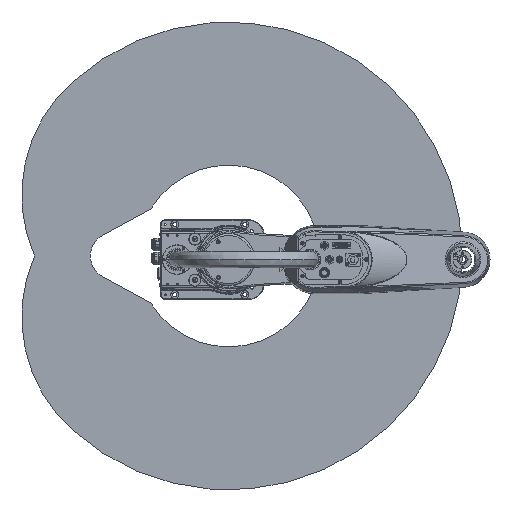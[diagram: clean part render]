
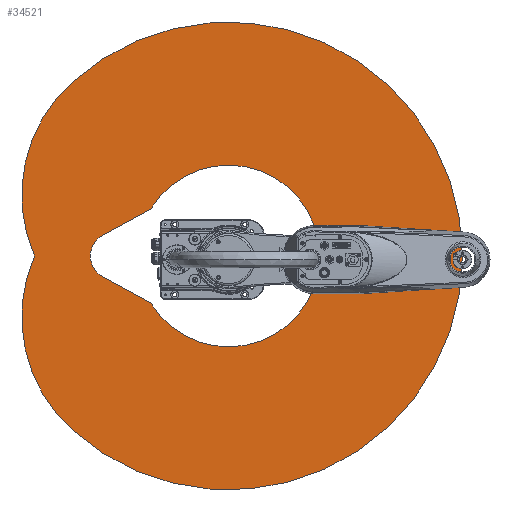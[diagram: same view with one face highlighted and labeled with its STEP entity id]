
A CAD part, left-side view. The second image highlights one B-rep face of the part: STEP entity #34521.
In plain terms, the highlighted planar face has unit normal (-1, 0, 0) as drawn and (0, -1, 0) by its records, which use the part's own axes.
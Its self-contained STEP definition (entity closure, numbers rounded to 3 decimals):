
#191 = VERTEX_POINT ( 'NONE', #91484 ) ;
#603 = CARTESIAN_POINT ( 'NONE',  ( 43.901, 0., 269.464 ) ) ;
#757 = EDGE_LOOP ( 'NONE', ( #51242, #29359, #32801, #58728 ) ) ;
#2511 = AXIS2_PLACEMENT_3D ( 'NONE', #65936, #19798, #12307 ) ;
#2615 = CARTESIAN_POINT ( 'NONE',  ( -100., 0., 166.552 ) ) ;
#3140 = CARTESIAN_POINT ( 'NONE',  ( 0., 0., 0. ) ) ;
#5515 = CIRCLE ( 'NONE', #61550, 50. ) ;
#9451 = DIRECTION ( 'NONE',  ( 0., 0., 1. ) ) ;
#9756 = CARTESIAN_POINT ( 'NONE',  ( 0., 0., 0. ) ) ;
#11497 = CARTESIAN_POINT ( 'NONE',  ( 65.025, 0., 58.549 ) ) ;
#11736 = EDGE_LOOP ( 'NONE', ( #31556, #36442, #84532, #15434, #97854 ) ) ;
#12307 = DIRECTION ( 'NONE',  ( 0., 0., -1. ) ) ;
#12398 = AXIS2_PLACEMENT_3D ( 'NONE', #9756, #41318, #40325 ) ;
#15434 = ORIENTED_EDGE ( 'NONE', *, *, #66139, .T. ) ;
#16088 = EDGE_CURVE ( 'NONE', #42979, #18615, #60010, .T. ) ;
#17666 = DIRECTION ( 'NONE',  ( 0., 0., 1. ) ) ;
#17684 = DIRECTION ( 'NONE',  ( 0., 0., 1. ) ) ;
#18449 = CIRCLE ( 'NONE', #2511, 325. ) ;
#18466 = EDGE_CURVE ( 'NONE', #21357, #37325, #50235, .T. ) ;
#18615 = VERTEX_POINT ( 'NONE', #52231 ) ;
#19148 = AXIS2_PLACEMENT_3D ( 'NONE', #86864, #33712, #17684 ) ;
#19206 = DIRECTION ( 'NONE',  ( 0., 1., 0. ) ) ;
#19798 = DIRECTION ( 'NONE',  ( 0., 1., 0. ) ) ;
#20332 = CARTESIAN_POINT ( 'NONE',  ( 0., 0., 414.943 ) ) ;
#21303 = AXIS2_PLACEMENT_3D ( 'NONE', #11497, #41091, #34040 ) ;
#21357 = VERTEX_POINT ( 'NONE', #2615 ) ;
#23367 = AXIS2_PLACEMENT_3D ( 'NONE', #76501, #99078, #84012 ) ;
#29359 = ORIENTED_EDGE ( 'NONE', *, *, #36957, .F. ) ;
#30688 = EDGE_CURVE ( 'NONE', #43555, #42979, #41632, .T. ) ;
#31556 = ORIENTED_EDGE ( 'NONE', *, *, #48498, .T. ) ;
#32801 = ORIENTED_EDGE ( 'NONE', *, *, #54594, .F. ) ;
#33543 = CARTESIAN_POINT ( 'NONE',  ( 371.572, 0., 334.565 ) ) ;
#33712 = DIRECTION ( 'NONE',  ( 0., 1., 0. ) ) ;
#34040 = DIRECTION ( 'NONE',  ( 0., 0., 1. ) ) ;
#34521 = ADVANCED_FACE ( 'NONE', ( #60695, #93718 ), #72153, .F. ) ;
#34714 = CARTESIAN_POINT ( 'NONE',  ( -43.901, 0., 269.464 ) ) ;
#34843 = CARTESIAN_POINT ( 'NONE',  ( 0., 0., -194.267 ) ) ;
#36442 = ORIENTED_EDGE ( 'NONE', *, *, #65220, .T. ) ;
#36957 = EDGE_CURVE ( 'NONE', #50567, #43555, #18449, .T. ) ;
#37325 = VERTEX_POINT ( 'NONE', #93679 ) ;
#40325 = DIRECTION ( 'NONE',  ( 0., 0., 1. ) ) ;
#41091 = DIRECTION ( 'NONE',  ( 0., 1., 0. ) ) ;
#41318 = DIRECTION ( 'NONE',  ( 0., 1., 0. ) ) ;
#41632 = CIRCLE ( 'NONE', #19148, 325. ) ;
#42244 = DIRECTION ( 'NONE',  ( 0., 0., 1. ) ) ;
#42979 = VERTEX_POINT ( 'NONE', #33543 ) ;
#43555 = VERTEX_POINT ( 'NONE', #20332 ) ;
#47496 = CIRCLE ( 'NONE', #66652, 194.267 ) ;
#48245 = VERTEX_POINT ( 'NONE', #92294 ) ;
#48498 = EDGE_CURVE ( 'NONE', #37325, #191, #5515, .T. ) ;
#48623 = VECTOR ( 'NONE', #80334, 1000. ) ;
#50235 = LINE ( 'NONE', #34714, #48623 ) ;
#50567 = VERTEX_POINT ( 'NONE', #80873 ) ;
#51242 = ORIENTED_EDGE ( 'NONE', *, *, #30688, .F. ) ;
#52231 = CARTESIAN_POINT ( 'NONE',  ( 0., 0., -500. ) ) ;
#54394 = AXIS2_PLACEMENT_3D ( 'NONE', #79888, #19206, #42244 ) ;
#54594 = EDGE_CURVE ( 'NONE', #18615, #50567, #64003, .T. ) ;
#54730 = DIRECTION ( 'NONE',  ( 0.479, 0., -0.878 ) ) ;
#58728 = ORIENTED_EDGE ( 'NONE', *, *, #16088, .F. ) ;
#60010 = CIRCLE ( 'NONE', #23367, 500. ) ;
#60695 = FACE_OUTER_BOUND ( 'NONE', #757, .T. ) ;
#61550 = AXIS2_PLACEMENT_3D ( 'NONE', #90696, #98698, #9451 ) ;
#64003 = CIRCLE ( 'NONE', #54394, 500. ) ;
#65220 = EDGE_CURVE ( 'NONE', #191, #48245, #76795, .T. ) ;
#65936 = CARTESIAN_POINT ( 'NONE',  ( -130.05, 0., 117.098 ) ) ;
#66139 = EDGE_CURVE ( 'NONE', #85063, #21357, #81000, .T. ) ;
#66652 = AXIS2_PLACEMENT_3D ( 'NONE', #3140, #86367, #17666 ) ;
#72153 = PLANE ( 'NONE',  #21303 ) ;
#76501 = CARTESIAN_POINT ( 'NONE',  ( 0., 0., 0. ) ) ;
#76795 = LINE ( 'NONE', #603, #93908 ) ;
#79888 = CARTESIAN_POINT ( 'NONE',  ( 0., 0., 0. ) ) ;
#80334 = DIRECTION ( 'NONE',  ( 0.479, 0., 0.878 ) ) ;
#80873 = CARTESIAN_POINT ( 'NONE',  ( -371.572, 0., 334.565 ) ) ;
#81000 = CIRCLE ( 'NONE', #12398, 194.267 ) ;
#84012 = DIRECTION ( 'NONE',  ( 0., 0., 1. ) ) ;
#84532 = ORIENTED_EDGE ( 'NONE', *, *, #96813, .T. ) ;
#85063 = VERTEX_POINT ( 'NONE', #34843 ) ;
#86367 = DIRECTION ( 'NONE',  ( 0., 1., 0. ) ) ;
#86864 = CARTESIAN_POINT ( 'NONE',  ( 130.05, 0., 117.098 ) ) ;
#90696 = CARTESIAN_POINT ( 'NONE',  ( 0., 0., 245.533 ) ) ;
#91484 = CARTESIAN_POINT ( 'NONE',  ( 43.901, 0., 269.464 ) ) ;
#92294 = CARTESIAN_POINT ( 'NONE',  ( 100., 0., 166.552 ) ) ;
#93679 = CARTESIAN_POINT ( 'NONE',  ( -43.901, 0., 269.464 ) ) ;
#93718 = FACE_BOUND ( 'NONE', #11736, .T. ) ;
#93908 = VECTOR ( 'NONE', #54730, 1000. ) ;
#96813 = EDGE_CURVE ( 'NONE', #48245, #85063, #47496, .T. ) ;
#97854 = ORIENTED_EDGE ( 'NONE', *, *, #18466, .T. ) ;
#98698 = DIRECTION ( 'NONE',  ( 0., 1., 0. ) ) ;
#99078 = DIRECTION ( 'NONE',  ( 0., 1., 0. ) ) ;
